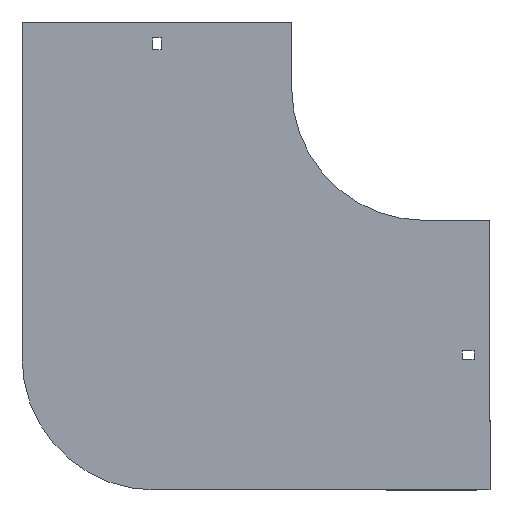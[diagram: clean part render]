
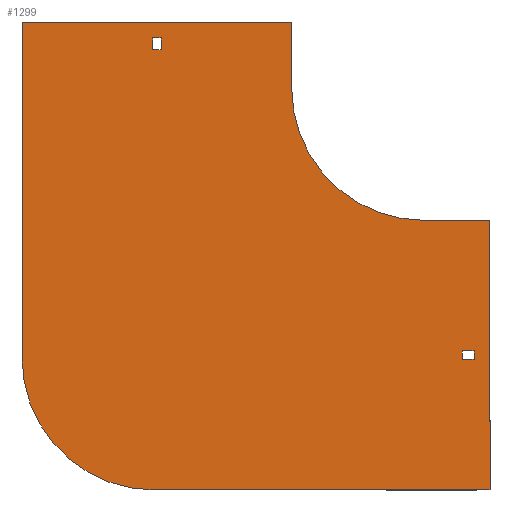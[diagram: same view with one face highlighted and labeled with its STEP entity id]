
A CAD part, front view. The second image highlights one B-rep face of the part: STEP entity #1299.
In plain terms, the highlighted planar face has unit normal (0, -1, 0).
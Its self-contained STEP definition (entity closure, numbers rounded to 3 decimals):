
#42 = DIRECTION ( 'NONE',  ( 0., 0., -1. ) ) ;
#47 = CARTESIAN_POINT ( 'NONE',  ( 50., 0., -100. ) ) ;
#58 = VECTOR ( 'NONE', #189, 1000. ) ;
#71 = LINE ( 'NONE', #217, #1392 ) ;
#80 = LINE ( 'NONE', #525, #1238 ) ;
#101 = CARTESIAN_POINT ( 'NONE',  ( -304., 0., -204. ) ) ;
#102 = EDGE_CURVE ( 'NONE', #408, #1523, #1328, .T. ) ;
#148 = CARTESIAN_POINT ( 'NONE',  ( -100., 0., 50. ) ) ;
#151 = DIRECTION ( 'NONE',  ( -1., 0., 0. ) ) ;
#166 = CARTESIAN_POINT ( 'NONE',  ( 29., 0., -205.25 ) ) ;
#183 = DIRECTION ( 'NONE',  ( -1., 0., 0. ) ) ;
#189 = DIRECTION ( 'NONE',  ( 0., 0., 1. ) ) ;
#191 = LINE ( 'NONE', #1382, #296 ) ;
#210 = DIRECTION ( 'NONE',  ( 0., 0., 1. ) ) ;
#211 = DIRECTION ( 'NONE',  ( 0., 0., 1. ) ) ;
#213 = ORIENTED_EDGE ( 'NONE', *, *, #363, .F. ) ;
#217 = CARTESIAN_POINT ( 'NONE',  ( 29., 0., -205.25 ) ) ;
#262 = ORIENTED_EDGE ( 'NONE', *, *, #1162, .F. ) ;
#296 = VECTOR ( 'NONE', #1225, 1000. ) ;
#300 = ORIENTED_EDGE ( 'NONE', *, *, #753, .T. ) ;
#331 = CARTESIAN_POINT ( 'NONE',  ( -198.75, 0., 38. ) ) ;
#334 = LINE ( 'NONE', #1689, #1406 ) ;
#345 = CIRCLE ( 'NONE', #1951, 100. ) ;
#348 = CARTESIAN_POINT ( 'NONE',  ( -205.25, 0., 29. ) ) ;
#363 = EDGE_CURVE ( 'NONE', #1291, #1223, #191, .T. ) ;
#370 = ORIENTED_EDGE ( 'NONE', *, *, #1516, .F. ) ;
#378 = LINE ( 'NONE', #1455, #571 ) ;
#399 = VECTOR ( 'NONE', #151, 1000. ) ;
#408 = VERTEX_POINT ( 'NONE', #1560 ) ;
#409 = EDGE_CURVE ( 'NONE', #1523, #902, #1084, .T. ) ;
#410 = CARTESIAN_POINT ( 'NONE',  ( 38., 0., -198.75 ) ) ;
#423 = CARTESIAN_POINT ( 'NONE',  ( 38., 0., -205.25 ) ) ;
#446 = ORIENTED_EDGE ( 'NONE', *, *, #1700, .F. ) ;
#456 = VERTEX_POINT ( 'NONE', #699 ) ;
#487 = CARTESIAN_POINT ( 'NONE',  ( -205.25, 0., 29. ) ) ;
#525 = CARTESIAN_POINT ( 'NONE',  ( -205.25, 0., 29. ) ) ;
#570 = EDGE_CURVE ( 'NONE', #1597, #895, #334, .T. ) ;
#571 = VECTOR ( 'NONE', #696, 1000. ) ;
#591 = EDGE_CURVE ( 'NONE', #895, #1901, #1343, .T. ) ;
#643 = CARTESIAN_POINT ( 'NONE',  ( -198.75, 0., 29. ) ) ;
#644 = VERTEX_POINT ( 'NONE', #348 ) ;
#696 = DIRECTION ( 'NONE',  ( 0., 0., -1. ) ) ;
#699 = CARTESIAN_POINT ( 'NONE',  ( -100., 0., 0. ) ) ;
#722 = FACE_BOUND ( 'NONE', #975, .T. ) ;
#732 = CARTESIAN_POINT ( 'NONE',  ( -205.25, 0., 38. ) ) ;
#753 = EDGE_CURVE ( 'NONE', #1361, #644, #80, .T. ) ;
#760 = VERTEX_POINT ( 'NONE', #1462 ) ;
#772 = DIRECTION ( 'NONE',  ( 1., 0., 0. ) ) ;
#813 = ORIENTED_EDGE ( 'NONE', *, *, #884, .T. ) ;
#821 = DIRECTION ( 'NONE',  ( 0., 0., -1. ) ) ;
#878 = CARTESIAN_POINT ( 'NONE',  ( 0., 0., -100. ) ) ;
#884 = EDGE_CURVE ( 'NONE', #1341, #1361, #378, .T. ) ;
#893 = DIRECTION ( 'NONE',  ( 0., 0., -1. ) ) ;
#895 = VERTEX_POINT ( 'NONE', #410 ) ;
#902 = VERTEX_POINT ( 'NONE', #101 ) ;
#924 = PLANE ( 'NONE',  #1483 ) ;
#929 = ORIENTED_EDGE ( 'NONE', *, *, #409, .F. ) ;
#933 = LINE ( 'NONE', #1674, #1684 ) ;
#936 = LINE ( 'NONE', #1470, #1763 ) ;
#956 = DIRECTION ( 'NONE',  ( 0., 1., 0. ) ) ;
#969 = ORIENTED_EDGE ( 'NONE', *, *, #1352, .F. ) ;
#975 = EDGE_LOOP ( 'NONE', ( #1657, #969, #1915, #1934 ) ) ;
#987 = CARTESIAN_POINT ( 'NONE',  ( -304., 0., -204. ) ) ;
#1012 = CARTESIAN_POINT ( 'NONE',  ( 0., 0., 0. ) ) ;
#1018 = VERTEX_POINT ( 'NONE', #732 ) ;
#1034 = CARTESIAN_POINT ( 'NONE',  ( -304., 0., 50. ) ) ;
#1070 = VECTOR ( 'NONE', #1232, 1000. ) ;
#1084 = CIRCLE ( 'NONE', #1916, 100. ) ;
#1150 = CARTESIAN_POINT ( 'NONE',  ( 50., 0., -100. ) ) ;
#1162 = EDGE_CURVE ( 'NONE', #456, #1291, #345, .T. ) ;
#1191 = VECTOR ( 'NONE', #893, 1000. ) ;
#1214 = LINE ( 'NONE', #487, #58 ) ;
#1223 = VERTEX_POINT ( 'NONE', #1150 ) ;
#1225 = DIRECTION ( 'NONE',  ( 1., 0., 0. ) ) ;
#1232 = DIRECTION ( 'NONE',  ( 0., 0., -1. ) ) ;
#1238 = VECTOR ( 'NONE', #1883, 1000. ) ;
#1254 = LINE ( 'NONE', #47, #1070 ) ;
#1265 = ORIENTED_EDGE ( 'NONE', *, *, #1359, .T. ) ;
#1291 = VERTEX_POINT ( 'NONE', #878 ) ;
#1298 = ORIENTED_EDGE ( 'NONE', *, *, #1908, .F. ) ;
#1299 = ADVANCED_FACE ( 'NONE', ( #1812, #1527, #722 ), #924, .T. ) ;
#1303 = VECTOR ( 'NONE', #183, 1000. ) ;
#1328 = LINE ( 'NONE', #1448, #399 ) ;
#1341 = VERTEX_POINT ( 'NONE', #331 ) ;
#1343 = LINE ( 'NONE', #1714, #1303 ) ;
#1352 = EDGE_CURVE ( 'NONE', #1687, #1597, #936, .T. ) ;
#1359 = EDGE_CURVE ( 'NONE', #644, #1018, #1214, .T. ) ;
#1361 = VERTEX_POINT ( 'NONE', #643 ) ;
#1382 = CARTESIAN_POINT ( 'NONE',  ( 0., 0., -100. ) ) ;
#1390 = CARTESIAN_POINT ( 'NONE',  ( 29., 0., -198.75 ) ) ;
#1392 = VECTOR ( 'NONE', #821, 1000. ) ;
#1406 = VECTOR ( 'NONE', #1542, 1000. ) ;
#1418 = CARTESIAN_POINT ( 'NONE',  ( -100., 0., 50. ) ) ;
#1448 = CARTESIAN_POINT ( 'NONE',  ( 50., 0., -304. ) ) ;
#1455 = CARTESIAN_POINT ( 'NONE',  ( -198.75, 0., 29. ) ) ;
#1462 = CARTESIAN_POINT ( 'NONE',  ( -304., 0., 50. ) ) ;
#1470 = CARTESIAN_POINT ( 'NONE',  ( 29., 0., -205.25 ) ) ;
#1483 = AXIS2_PLACEMENT_3D ( 'NONE', #1785, #1824, #42 ) ;
#1506 = VERTEX_POINT ( 'NONE', #1418 ) ;
#1512 = DIRECTION ( 'NONE',  ( 1., 0., 0. ) ) ;
#1516 = EDGE_CURVE ( 'NONE', #902, #760, #1746, .T. ) ;
#1523 = VERTEX_POINT ( 'NONE', #1856 ) ;
#1527 = FACE_OUTER_BOUND ( 'NONE', #1796, .T. ) ;
#1535 = ORIENTED_EDGE ( 'NONE', *, *, #102, .F. ) ;
#1539 = DIRECTION ( 'NONE',  ( 1., 0., 0. ) ) ;
#1542 = DIRECTION ( 'NONE',  ( 0., 0., 1. ) ) ;
#1560 = CARTESIAN_POINT ( 'NONE',  ( 50., 0., -304. ) ) ;
#1571 = ORIENTED_EDGE ( 'NONE', *, *, #1703, .F. ) ;
#1593 = DIRECTION ( 'NONE',  ( 0., -1., 0. ) ) ;
#1597 = VERTEX_POINT ( 'NONE', #423 ) ;
#1612 = DIRECTION ( 'NONE',  ( 0., 0., -1. ) ) ;
#1657 = ORIENTED_EDGE ( 'NONE', *, *, #570, .F. ) ;
#1658 = EDGE_LOOP ( 'NONE', ( #1265, #1726, #813, #300 ) ) ;
#1661 = EDGE_CURVE ( 'NONE', #1018, #1341, #933, .T. ) ;
#1662 = LINE ( 'NONE', #148, #1191 ) ;
#1674 = CARTESIAN_POINT ( 'NONE',  ( -205.25, 0., 38. ) ) ;
#1684 = VECTOR ( 'NONE', #772, 1000. ) ;
#1687 = VERTEX_POINT ( 'NONE', #166 ) ;
#1689 = CARTESIAN_POINT ( 'NONE',  ( 38., 0., -205.25 ) ) ;
#1699 = VECTOR ( 'NONE', #210, 1000. ) ;
#1700 = EDGE_CURVE ( 'NONE', #1506, #456, #1662, .T. ) ;
#1703 = EDGE_CURVE ( 'NONE', #760, #1506, #1822, .T. ) ;
#1714 = CARTESIAN_POINT ( 'NONE',  ( 29., 0., -198.75 ) ) ;
#1726 = ORIENTED_EDGE ( 'NONE', *, *, #1661, .T. ) ;
#1746 = LINE ( 'NONE', #987, #1699 ) ;
#1763 = VECTOR ( 'NONE', #1539, 1000. ) ;
#1785 = CARTESIAN_POINT ( 'NONE',  ( 0., 0., 0. ) ) ;
#1796 = EDGE_LOOP ( 'NONE', ( #1571, #370, #929, #1535, #1298, #213, #262, #446 ) ) ;
#1812 = FACE_BOUND ( 'NONE', #1658, .T. ) ;
#1822 = LINE ( 'NONE', #1034, #1933 ) ;
#1824 = DIRECTION ( 'NONE',  ( 0., -1., 0. ) ) ;
#1856 = CARTESIAN_POINT ( 'NONE',  ( -204., 0., -304. ) ) ;
#1883 = DIRECTION ( 'NONE',  ( -1., 0., 0. ) ) ;
#1892 = CARTESIAN_POINT ( 'NONE',  ( -204., 0., -204. ) ) ;
#1901 = VERTEX_POINT ( 'NONE', #1390 ) ;
#1908 = EDGE_CURVE ( 'NONE', #1223, #408, #1254, .T. ) ;
#1915 = ORIENTED_EDGE ( 'NONE', *, *, #1929, .F. ) ;
#1916 = AXIS2_PLACEMENT_3D ( 'NONE', #1892, #956, #211 ) ;
#1929 = EDGE_CURVE ( 'NONE', #1901, #1687, #71, .T. ) ;
#1933 = VECTOR ( 'NONE', #1512, 1000. ) ;
#1934 = ORIENTED_EDGE ( 'NONE', *, *, #591, .F. ) ;
#1951 = AXIS2_PLACEMENT_3D ( 'NONE', #1012, #1593, #1612 ) ;
